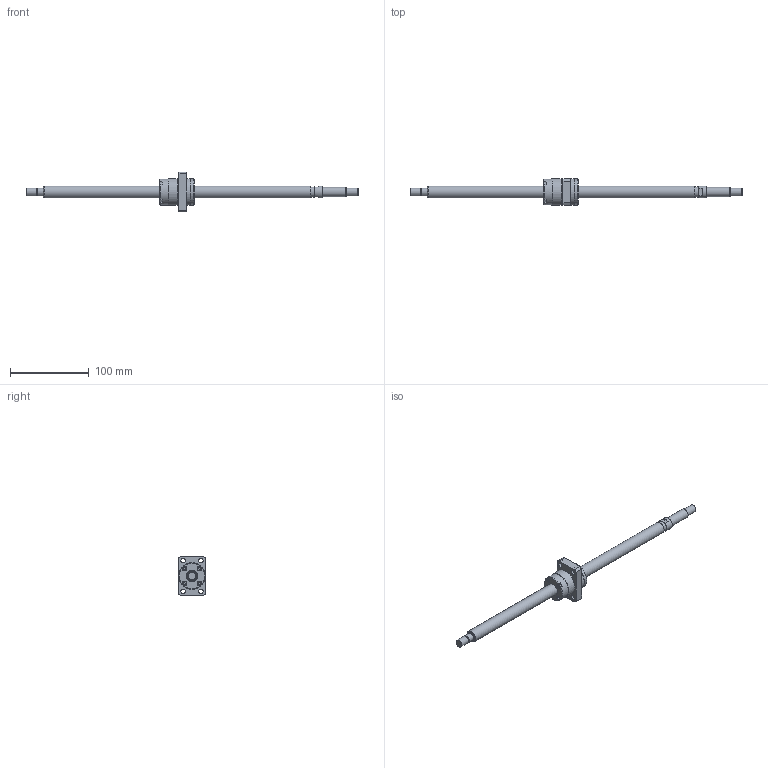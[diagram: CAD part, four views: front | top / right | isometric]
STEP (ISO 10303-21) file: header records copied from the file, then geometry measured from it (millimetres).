
FILE_DESCRIPTION(/* description */ ('STEP AP203'),/* implementation_level */ '2;1');
FILE_NAME(/* name */ 'BNK1510-5.6G0+421LC5Y(191.50)',/* time_stamp */ '2024-07-09T09:22:42+02:00',/* author */ ('License CC BY-ND 4.0'),/* organization */ ('CADENAS'),/* preprocessor_version */ 'ST-DEVELOPER v19.3',/* originating_system */ 'PARTsolutions',/* authorisation */ ' ');
FILE_SCHEMA (('CONFIG_CONTROL_DESIGN'));
Length unit declared in the file: millimetre
Products named in the file (3): BNK1510-5.6G0+421LC5Y(191.50); BNK 1510-5.6G0+421LC5Y Shaft; BNK 1510-5.6G0+421LC5Y0 Nut
Assembly tree (2 placements, depth 2):
  BNK1510-5.6G0+421LC5Y(191.50)
    BNK 1510-5.6G0+421LC5Y Shaft
    BNK 1510-5.6G0+421LC5Y0 Nut
Bounding box: 421 x 34 x 50 mm (x, y, z)
Volume: 104999.5 mm3; surface area: 31127.8 mm2
Topology: 2 solids, 2 shells, 137 faces, 313 edges, 202 vertices
Faces by surface type: plane 76, cylinder 35, cone 20, torus 6
Full cylindrical faces by diameter (mm): 5.188 x1, 5.5 x8, 9.5 x4, 9.6 x1, 10 x3, 12 x1, 13 x1, 15 x3, 30.6 x1, 33 x2, 34 x2
Entity records: 3729 total; most frequent: CARTESIAN_POINT 677, DIRECTION 632, ORIENTED_EDGE 534, EDGE_CURVE 267, AXIS2_PLACEMENT_3D 249, FACE_BOUND 211, EDGE_LOOP 210, VERTEX_POINT 198
